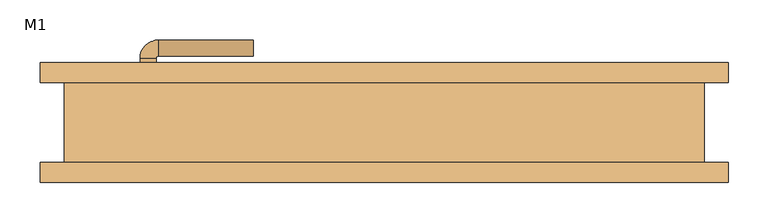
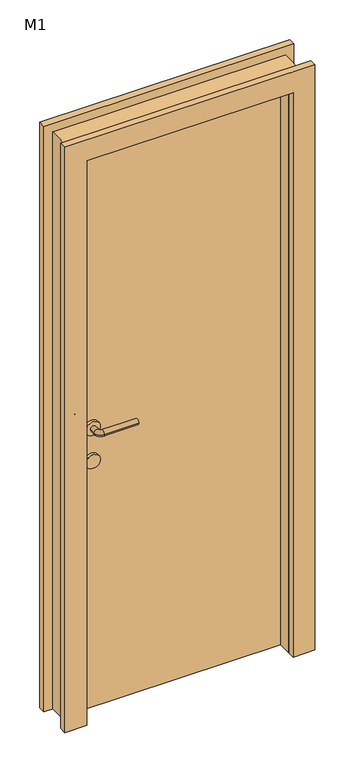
"""IFC4 building model written with IfcOpenShell, lengths in millimetres: door geometry, 单嵌板木门 1 : M1."""

from ifc_helpers import new_model, si_unit, point, frame, frame_2d, origin, origin_with_axes, place, context, project, spatial, polyline, circle_curve, ellipse_curve, trimmed, segment, composite_curve, outline, extrude, source, transform, mapped, element, save
from ifc_brep_helpers import plane_surface, cylinder_surface, revolved_surface, advanced_brep


def m1_9f206538(model_context):
    return source(origin(), model_context, "Body", "SolidModel", [
        extrude(outline(composite_curve([segment(trimmed(circle_curve(frame_2d((900.0, -295.0)), 25.0), [point((900.0, -270.0))], [point((900.0, -320.0))], False, "CARTESIAN"), True, "CONTINUOUS"), segment(trimmed(circle_curve(frame_2d((900.0, -295.0)), 25.0), [point((900.0, -320.0))], [point((900.0, -270.0))], False, "CARTESIAN"), True, "CONTINUOUS")], self_intersect=False)), frame((0.0, -10.0, 0.0), z_axis=(0.0, 1.0, 0.0), x_axis=(0.0, 0.0, 1.0)), (0.0, 0.0, 1.0), 10.0),
        extrude(outline(composite_curve([segment(trimmed(circle_curve(frame_2d((900.0, -295.0)), 25.0), [point((900.0, -270.0))], [point((900.0, -320.0))], False, "CARTESIAN"), True, "CONTINUOUS"), segment(trimmed(circle_curve(frame_2d((900.0, -295.0)), 25.0), [point((900.0, -320.0))], [point((900.0, -270.0))], False, "CARTESIAN"), True, "CONTINUOUS")], self_intersect=False)), frame((0.0, 50.0, 0.0), z_axis=(0.0, 1.0, 0.0), x_axis=(0.0, 0.0, 1.0)), (0.0, 0.0, 1.0), 10.0),
        advanced_brep(
        [(-305.0, -10.0, 1020.0), (-285.0, -10.0, 1020.0), (-285.0, -30.613355, 1020.0), (-305.0, -30.613355, 1020.0), (-163.419036, -53.580964, 1020.0), (-163.419036, -33.580964, 1020.0), (-282.0323911, -33.580964, 1020.0), (-282.0323911, -53.580964, 1020.0)],
        [
            (0, 1, circle_curve(frame((-295.0, -10.0, 1020.0), z_axis=(0.0, 1.0, 0.0), x_axis=(1.0, 0.0, 0.0)), 10.0)),
            (1, 0, circle_curve(frame((-295.0, -10.0, 1020.0), z_axis=(0.0, 1.0, 0.0), x_axis=(1.0, 0.0, 0.0)), 10.0)),
            (1, 2),
            (2, 3, circle_curve(frame((-295.0, -30.613355, 1020.0), z_axis=(0.0, 1.0, 0.0), x_axis=(1.0, 0.0, 0.0)), 10.0)),
            (3, 0),
            (3, 2, circle_curve(frame((-295.0, -30.613355, 1020.0), z_axis=(0.0, 1.0, 0.0), x_axis=(1.0, 0.0, 0.0)), 10.0)),
            (4, 5, circle_curve(frame((-163.419036, -43.580964, 1020.0), z_axis=(1.0, 0.0, 0.0), x_axis=(0.0, 1.0, 0.0)), 10.0)),
            (5, 4, circle_curve(frame((-163.419036, -43.580964, 1020.0), z_axis=(1.0, 0.0, 0.0), x_axis=(0.0, 1.0, 0.0)), 10.0)),
            (6, 2, circle_curve(frame((-282.0323911, -30.613355, 1020.0), z_axis=(0.0, 0.0, -1.0), x_axis=(-1.0, 0.0, 0.0)), 2.9676089)),
            (3, 7, circle_curve(frame((-282.0323911, -30.613355, 1020.0), z_axis=(0.0, 0.0, 1.0), x_axis=(-1.0, 0.0, 0.0)), 22.9676089)),
            (7, 6, circle_curve(frame((-282.0323911, -43.580964, 1020.0), z_axis=(-1.0, 0.0, 0.0), x_axis=(0.0, 1.0, 0.0)), 10.0)),
            (6, 7, circle_curve(frame((-282.0323911, -43.580964, 1020.0), z_axis=(-1.0, 0.0, 0.0), x_axis=(0.0, 1.0, 0.0)), 10.0)),
            (7, 4),
            (5, 6),
        ],
        [
            plane_surface(frame((-295.0, -10.0, 900.0), z_axis=(0.0, 1.0, 0.0), x_axis=(0.0, 0.0, 1.0))),
            cylinder_surface(frame((-295.0, -10.0, 1020.0), z_axis=(0.0, 1.0, 0.0), x_axis=(1.0, 0.0, 0.0)), 10.0),
            plane_surface(frame((-163.419036, -43.580964, 900.0), z_axis=(1.0, 0.0, 0.0), x_axis=(0.0, 0.0, 1.0))),
            revolved_surface(trimmed(ellipse_curve(frame((-295.0, -30.613355, 1020.0), z_axis=(0.0, 1.0, 0.0), x_axis=(1.0, 0.0, 0.0)), 10.0, 10.0), [point((-305.0, -30.613355, 1020.0))], [point((-285.0, -30.613355, 1020.0))], True, "CARTESIAN"), (-282.0323911, -30.613355, 900.0), (0.0, 0.0, 1.0)),
            revolved_surface(trimmed(ellipse_curve(frame((-295.0, -30.613355, 1020.0), z_axis=(0.0, 1.0, 0.0), x_axis=(1.0, 0.0, 0.0)), 10.0, 10.0), [point((-285.0, -30.613355, 1020.0))], [point((-305.0, -30.613355, 1020.0))], True, "CARTESIAN"), (-282.0323911, -30.613355, 900.0), (0.0, 0.0, 1.0)),
            cylinder_surface(frame((-282.0323911, -43.580964, 1020.0), z_axis=(-1.0, 0.0, 0.0), x_axis=(0.0, 1.0, 0.0)), 10.0),
        ],
        [
            (0, [[1, 2]]),
            (1, [[-2, 3, 4, 5]]),
            (1, [[-1, -5, 6, -3]]),
            (2, [[7, 8]]),
            (3, [[9, -6, 10, 11]]),
            (4, [[-10, -4, -9, 12]]),
            (5, [[-11, 13, -8, 14]]),
            (5, [[-12, -14, -7, -13]]),
        ],
    ),
        extrude(outline(composite_curve([segment(trimmed(circle_curve(frame_2d((1020.0, -295.0)), 25.0), [point((1020.0, -270.0))], [point((1020.0, -320.0))], False, "CARTESIAN"), True, "CONTINUOUS"), segment(trimmed(circle_curve(frame_2d((1020.0, -295.0)), 25.0), [point((1020.0, -320.0))], [point((1020.0, -270.0))], False, "CARTESIAN"), True, "CONTINUOUS")], self_intersect=False)), frame((0.0, -10.0, 0.0), z_axis=(0.0, 1.0, 0.0), x_axis=(0.0, 0.0, 1.0)), (0.0, 0.0, 1.0), 10.0),
        advanced_brep(
        [(-285.0, 60.0, 1020.0), (-305.0, 60.0, 1020.0), (-285.0, 80.6133551, 1020.0), (-305.0, 80.6133551, 1020.0), (-163.419036, 83.580964, 1020.0), (-163.419036, 103.580964, 1020.0), (-282.0323911, 103.580964, 1020.0), (-282.0323911, 83.580964, 1020.0)],
        [
            (0, 1, circle_curve(frame((-295.0, 60.0, 1020.0), z_axis=(0.0, -1.0, 0.0), x_axis=(-1.0, 0.0, 0.0)), 10.0)),
            (1, 0, circle_curve(frame((-295.0, 60.0, 1020.0), z_axis=(0.0, -1.0, 0.0), x_axis=(-1.0, 0.0, 0.0)), 10.0)),
            (0, 2),
            (2, 3, circle_curve(frame((-295.0, 80.6133551, 1020.0), z_axis=(0.0, -1.0, 0.0), x_axis=(-1.0, 0.0, 0.0)), 10.0)),
            (3, 1),
            (3, 2, circle_curve(frame((-295.0, 80.6133551, 1020.0), z_axis=(0.0, -1.0, 0.0), x_axis=(-1.0, 0.0, 0.0)), 10.0)),
            (4, 5, circle_curve(frame((-163.419036, 93.580964, 1020.0), z_axis=(1.0, 0.0, 0.0), x_axis=(0.0, 1.0, 0.0)), 10.0)),
            (5, 4, circle_curve(frame((-163.419036, 93.580964, 1020.0), z_axis=(1.0, 0.0, 0.0), x_axis=(0.0, 1.0, 0.0)), 10.0)),
            (6, 3, circle_curve(frame((-282.0323911, 80.6133551, 1020.0), z_axis=(0.0, 0.0, 1.0), x_axis=(-1.0, 0.0, 0.0)), 22.9676089)),
            (2, 7, circle_curve(frame((-282.0323911, 80.6133551, 1020.0), z_axis=(0.0, 0.0, -1.0), x_axis=(-1.0, 0.0, 0.0)), 2.9676089)),
            (7, 6, circle_curve(frame((-282.0323911, 93.580964, 1020.0), z_axis=(-1.0, 0.0, 0.0), x_axis=(0.0, 1.0, 0.0)), 10.0)),
            (6, 7, circle_curve(frame((-282.0323911, 93.580964, 1020.0), z_axis=(-1.0, 0.0, 0.0), x_axis=(0.0, 1.0, 0.0)), 10.0)),
            (7, 4),
            (5, 6),
        ],
        [
            plane_surface(frame((-295.0, 60.0, 900.0), z_axis=(0.0, -1.0, 0.0), x_axis=(0.0, 0.0, 1.0))),
            cylinder_surface(frame((-295.0, 60.0, 1020.0), z_axis=(0.0, -1.0, 0.0), x_axis=(-1.0, 0.0, 0.0)), 10.0),
            plane_surface(frame((-163.419036, 93.580964, 900.0), z_axis=(1.0, 0.0, 0.0), x_axis=(0.0, 0.0, 1.0))),
            revolved_surface(trimmed(ellipse_curve(frame((-295.0, 80.6133551, 1020.0), z_axis=(0.0, -1.0, 0.0), x_axis=(-1.0, 0.0, 0.0)), 10.0, 10.0), [point((-285.0, 80.6133551, 1020.0))], [point((-305.0, 80.6133551, 1020.0))], True, "CARTESIAN"), (-282.0323911, 80.6133551, 900.0), (0.0, 0.0, -1.0)),
            revolved_surface(trimmed(ellipse_curve(frame((-295.0, 80.6133551, 1020.0), z_axis=(0.0, -1.0, 0.0), x_axis=(-1.0, 0.0, 0.0)), 10.0, 10.0), [point((-305.0, 80.6133551, 1020.0))], [point((-285.0, 80.6133551, 1020.0))], True, "CARTESIAN"), (-282.0323911, 80.6133551, 900.0), (0.0, 0.0, -1.0)),
            cylinder_surface(frame((-282.0323911, 93.580964, 1020.0), z_axis=(-1.0, 0.0, 0.0), x_axis=(0.0, 1.0, 0.0)), 10.0),
        ],
        [
            (0, [[1, 2]]),
            (1, [[-1, 3, 4, 5]]),
            (1, [[-2, -5, 6, -3]]),
            (2, [[7, 8]]),
            (3, [[9, -4, 10, 11]]),
            (4, [[-10, -6, -9, 12]]),
            (5, [[-11, 13, -8, 14]]),
            (5, [[-12, -14, -7, -13]]),
        ],
    ),
        extrude(outline(composite_curve([segment(trimmed(circle_curve(frame_2d((1020.0, -295.0)), 25.0), [point((1020.0, -270.0))], [point((1020.0, -320.0))], False, "CARTESIAN"), True, "CONTINUOUS"), segment(trimmed(circle_curve(frame_2d((1020.0, -295.0)), 25.0), [point((1020.0, -320.0))], [point((1020.0, -270.0))], False, "CARTESIAN"), True, "CONTINUOUS")], self_intersect=False)), frame((0.0, 50.0, 0.0), z_axis=(0.0, 1.0, 0.0), x_axis=(0.0, 0.0, 1.0)), (0.0, 0.0, 1.0), 10.0),
        extrude(outline(polyline([(0.0, 430.0), (2130.0, 430.0), (2130.0, -430.0), (0.0, -430.0), (0.0, -355.0), (2055.0, -355.0), (2055.0, 355.0), (0.0, 355.0), (0.0, 430.0)])), frame((0.0, 50.0, 0.0), z_axis=(0.0, 1.0, 0.0), x_axis=(0.0, 0.0, 1.0)), (0.0, 0.0, 1.0), 25.0),
        extrude(outline(polyline([(2130.0, 430.0), (2130.0, -430.0), (0.0, -430.0), (0.0, -355.0), (2055.0, -355.0), (2055.0, 355.0), (0.0, 355.0), (0.0, 430.0), (2130.0, 430.0)])), frame((0.0, -75.0, 0.0), z_axis=(0.0, 1.0, 0.0), x_axis=(0.0, 0.0, 1.0)), (0.0, 0.0, 1.0), 25.0),
        extrude(outline(polyline([(355.0, 0.0), (-355.0, 0.0), (-355.0, 50.0), (355.0, 50.0), (355.0, 0.0)])), origin_with_axes(), (0.0, 0.0, 1.0), 2055.0),
        extrude(outline(polyline([(2100.0, -400.0), (0.0, -400.0), (0.0, -355.0), (2055.0, -355.0), (2055.0, 355.0), (0.0, 355.0), (0.0, 400.0), (2100.0, 400.0), (2100.0, -400.0)])), frame((0.0, -50.0, 0.0), z_axis=(0.0, 1.0, 0.0), x_axis=(0.0, 0.0, 1.0)), (0.0, 0.0, 1.0), 100.0),
    ])


if __name__ == "__main__":
    model = new_model("IFC4")
    model_context = context("Model", 3, world=origin())
    ifc_project = project(units=[si_unit("LENGTHUNIT", "METRE", prefix="MILLI")], contexts=[model_context])
    site = spatial("IfcSite", under=ifc_project)
    building = spatial("IfcBuilding", under=site)
    placement = place(None, origin())
    m1_shape = m1_9f206538(model_context)
    element("IfcDoor", 1, ObjectType="单嵌板木门 1 : M1", at=placement, inside=building, context=model_context, shape_type="MappedRepresentation", body=[
        mapped(m1_shape, transform((0.0, 0.0, 0.0), x_axis=(1.0, 0.0, 0.0), y_axis=(0.0, 1.0, 0.0), z_axis=(0.0, 0.0, 1.0))),
    ])
    save(model, "model.ifc")
